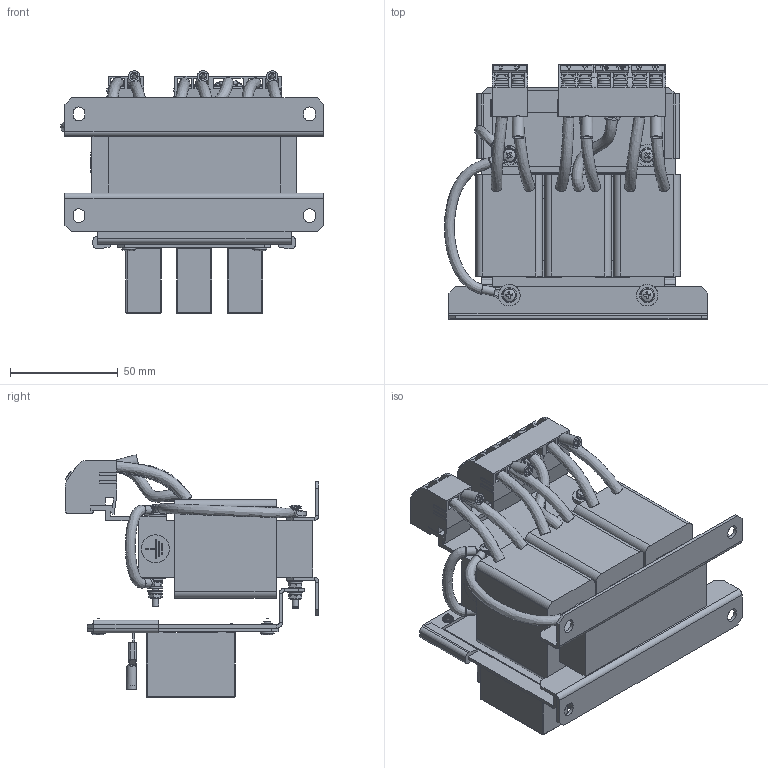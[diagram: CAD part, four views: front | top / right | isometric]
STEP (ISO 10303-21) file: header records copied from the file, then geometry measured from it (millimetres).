
FILE_DESCRIPTION(/* description */ (''),/* implementation_level */ '2;1');
FILE_NAME(/* name */ 'C:\Users\Erika.Jenzer\OneDrive - Schaffner EMV AG\BELLA\STEP FILES BELLA\FN\FN5420-3.1-88-E0XXT.stp',/* time_stamp */ '2021-07-08T08:44:51+02:00',/* author */ ('erika.jenzer'),/* organization */ (''),/* preprocessor_version */ 'ST-DEVELOPER v18.1',/* originating_system */ 'Autodesk Inventor 2020',/* authorisation */ '');
FILE_SCHEMA (('AUTOMOTIVE_DESIGN { 1 0 10303 214 3 1 1 }'));
Products named in the file (1): FN5420-3.1-88-E0XXT
Bounding box: 122.08 x 117.85 x 112.53 mm (x, y, z)
Volume: 396892.8 mm3; surface area: 127974.5 mm2
Topology: 1 solids, 81 shells, 3743 faces, 9927 edges, 6461 vertices
Faces by surface type: plane 2758, cylinder 671, bspline 148, cone 62, torus 56, sphere 48
Full cylindrical faces by diameter (mm): 0.01 x2, 0.028 x2, 1 x18, 1.2 x12, 1.8 x3, 2 x7, 2.3 x4, 2.7 x3, 3 x23, 3.1 x5, 3.2 x28, 3.3 x4, 3.4 x13, 3.5 x3, 3.6 x6, 3.8 x4, 3.9 x1, 4 x4, 4.1 x3, 4.2 x3, 4.3 x1, 4.5 x8, 4.6 x2, 4.62 x1, 5.2 x4, 5.7 x8, 6 x2, 6.5 x4, 7 x10, 9 x2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
Entity records: 128574 total; most frequent: CARTESIAN_POINT 32083, ORIENTED_EDGE 19834, DIRECTION 19072, EDGE_CURVE 9917, LINE 6742, VECTOR 6742, VERTEX_POINT 6461, AXIS2_PLACEMENT_3D 6165
